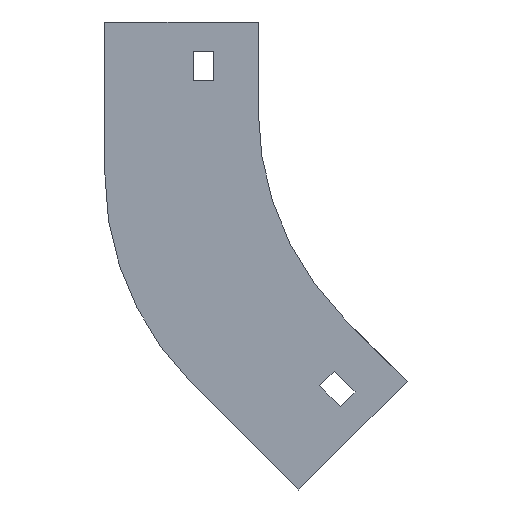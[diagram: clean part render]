
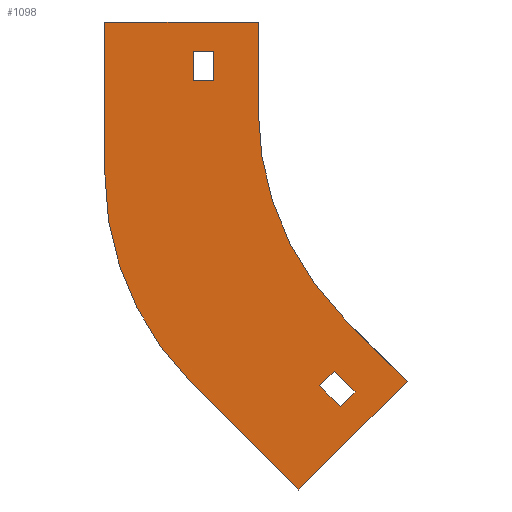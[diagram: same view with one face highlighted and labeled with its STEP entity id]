
A CAD part, left-side view. The second image highlights one B-rep face of the part: STEP entity #1098.
In plain terms, the highlighted planar face has unit normal (-1, 0, 0).
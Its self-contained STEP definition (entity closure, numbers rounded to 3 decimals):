
#8 = ORIENTED_EDGE ( 'NONE', *, *, #652, .F. ) ;
#13 = ORIENTED_EDGE ( 'NONE', *, *, #1168, .F. ) ;
#17 = CARTESIAN_POINT ( 'NONE',  ( -202., -13.733, -158.693 ) ) ;
#27 = CARTESIAN_POINT ( 'NONE',  ( -202., 52., 0. ) ) ;
#34 = CARTESIAN_POINT ( 'NONE',  ( -202., 22., -20. ) ) ;
#43 = VERTEX_POINT ( 'NONE', #1387 ) ;
#54 = VERTEX_POINT ( 'NONE', #941 ) ;
#56 = CARTESIAN_POINT ( 'NONE',  ( -202., -32.825, -125.459 ) ) ;
#68 = DIRECTION ( 'NONE',  ( 0., 0., -1. ) ) ;
#85 = VECTOR ( 'NONE', #113, 1000. ) ;
#95 = DIRECTION ( 'NONE',  ( 0., -1., 0. ) ) ;
#102 = CIRCLE ( 'NONE', #281, 100. ) ;
#113 = DIRECTION ( 'NONE',  ( 0., 0., 1. ) ) ;
#115 = ORIENTED_EDGE ( 'NONE', *, *, #1063, .F. ) ;
#125 = DIRECTION ( 'NONE',  ( -1., 0., 0. ) ) ;
#129 = CARTESIAN_POINT ( 'NONE',  ( -202., -50.503, -121.924 ) ) ;
#141 = VERTEX_POINT ( 'NONE', #129 ) ;
#146 = LINE ( 'NONE', #333, #702 ) ;
#147 = CARTESIAN_POINT ( 'NONE',  ( -202., -20.804, -123.338 ) ) ;
#179 = DIRECTION ( 'NONE',  ( 0., -1., 0. ) ) ;
#180 = ORIENTED_EDGE ( 'NONE', *, *, #637, .F. ) ;
#188 = VECTOR ( 'NONE', #556, 1000. ) ;
#190 = AXIS2_PLACEMENT_3D ( 'NONE', #1299, #125, #770 ) ;
#221 = EDGE_LOOP ( 'NONE', ( #426, #851, #1008, #115 ) ) ;
#222 = VECTOR ( 'NONE', #315, 1000. ) ;
#225 = VERTEX_POINT ( 'NONE', #568 ) ;
#230 = DIRECTION ( 'NONE',  ( 0., 0.707, -0.707 ) ) ;
#233 = FACE_BOUND ( 'NONE', #1297, .T. ) ;
#254 = FACE_OUTER_BOUND ( 'NONE', #804, .T. ) ;
#259 = VECTOR ( 'NONE', #874, 1000. ) ;
#264 = DIRECTION ( 'NONE',  ( 0., -0.707, -0.707 ) ) ;
#273 = VERTEX_POINT ( 'NONE', #56 ) ;
#277 = EDGE_CURVE ( 'NONE', #806, #680, #1002, .T. ) ;
#280 = VECTOR ( 'NONE', #264, 1000. ) ;
#281 = AXIS2_PLACEMENT_3D ( 'NONE', #464, #789, #1197 ) ;
#287 = EDGE_CURVE ( 'NONE', #859, #1097, #1361, .T. ) ;
#307 = LINE ( 'NONE', #729, #1162 ) ;
#315 = DIRECTION ( 'NONE',  ( 0., 0., 1. ) ) ;
#325 = DIRECTION ( 'NONE',  ( 0., 0.707, -0.707 ) ) ;
#333 = CARTESIAN_POINT ( 'NONE',  ( -202., -29.289, -100.711 ) ) ;
#338 = CARTESIAN_POINT ( 'NONE',  ( -202., 0., 0. ) ) ;
#349 = ORIENTED_EDGE ( 'NONE', *, *, #939, .F. ) ;
#364 = LINE ( 'NONE', #716, #1285 ) ;
#381 = DIRECTION ( 'NONE',  ( 0., 0., -1. ) ) ;
#426 = ORIENTED_EDGE ( 'NONE', *, *, #1080, .F. ) ;
#440 = LINE ( 'NONE', #455, #259 ) ;
#455 = CARTESIAN_POINT ( 'NONE',  ( -202., -13.733, -158.693 ) ) ;
#464 = CARTESIAN_POINT ( 'NONE',  ( -202., -48., -51.539 ) ) ;
#469 = ORIENTED_EDGE ( 'NONE', *, *, #491, .T. ) ;
#477 = DIRECTION ( 'NONE',  ( -1., 0., 0. ) ) ;
#491 = EDGE_CURVE ( 'NONE', #54, #225, #307, .T. ) ;
#500 = ORIENTED_EDGE ( 'NONE', *, *, #1149, .F. ) ;
#535 = VECTOR ( 'NONE', #1344, 1000. ) ;
#538 = CARTESIAN_POINT ( 'NONE',  ( -202., -29.289, -100.711 ) ) ;
#544 = CARTESIAN_POINT ( 'NONE',  ( -202., 22., -20. ) ) ;
#556 = DIRECTION ( 'NONE',  ( 0., -0.707, 0.707 ) ) ;
#565 = CARTESIAN_POINT ( 'NONE',  ( -202., -27.875, -130.409 ) ) ;
#568 = CARTESIAN_POINT ( 'NONE',  ( -202., 15., -20. ) ) ;
#576 = LINE ( 'NONE', #675, #1225 ) ;
#583 = VERTEX_POINT ( 'NONE', #538 ) ;
#585 = CARTESIAN_POINT ( 'NONE',  ( -202., 52., -51.539 ) ) ;
#587 = VERTEX_POINT ( 'NONE', #950 ) ;
#595 = ORIENTED_EDGE ( 'NONE', *, *, #934, .T. ) ;
#596 = EDGE_CURVE ( 'NONE', #857, #54, #1053, .T. ) ;
#598 = CARTESIAN_POINT ( 'NONE',  ( -202., -100., -30. ) ) ;
#637 = EDGE_CURVE ( 'NONE', #932, #859, #1069, .T. ) ;
#648 = VERTEX_POINT ( 'NONE', #544 ) ;
#652 = EDGE_CURVE ( 'NONE', #141, #840, #839, .T. ) ;
#659 = AXIS2_PLACEMENT_3D ( 'NONE', #598, #477, #1114 ) ;
#675 = CARTESIAN_POINT ( 'NONE',  ( -202., -32.825, -125.459 ) ) ;
#680 = VERTEX_POINT ( 'NONE', #856 ) ;
#702 = VECTOR ( 'NONE', #761, 1000. ) ;
#716 = CARTESIAN_POINT ( 'NONE',  ( -202., 0., 0. ) ) ;
#729 = CARTESIAN_POINT ( 'NONE',  ( -202., 15., -10. ) ) ;
#739 = CARTESIAN_POINT ( 'NONE',  ( -202., -50.503, -121.924 ) ) ;
#759 = EDGE_CURVE ( 'NONE', #840, #878, #440, .T. ) ;
#761 = DIRECTION ( 'NONE',  ( 0., -0.707, -0.707 ) ) ;
#770 = DIRECTION ( 'NONE',  ( 0., 0., 1. ) ) ;
#789 = DIRECTION ( 'NONE',  ( 1., 0., 0. ) ) ;
#804 = EDGE_LOOP ( 'NONE', ( #1024, #180, #349, #1081, #8, #500, #846, #13 ) ) ;
#806 = VERTEX_POINT ( 'NONE', #147 ) ;
#811 = CARTESIAN_POINT ( 'NONE',  ( -202., 52., 0. ) ) ;
#839 = LINE ( 'NONE', #739, #1179 ) ;
#840 = VERTEX_POINT ( 'NONE', #17 ) ;
#846 = ORIENTED_EDGE ( 'NONE', *, *, #1221, .F. ) ;
#849 = LINE ( 'NONE', #929, #222 ) ;
#851 = ORIENTED_EDGE ( 'NONE', *, *, #1108, .F. ) ;
#856 = CARTESIAN_POINT ( 'NONE',  ( -202., -27.875, -130.409 ) ) ;
#857 = VERTEX_POINT ( 'NONE', #1213 ) ;
#859 = VERTEX_POINT ( 'NONE', #27 ) ;
#874 = DIRECTION ( 'NONE',  ( 0., 0.707, 0.707 ) ) ;
#878 = VERTEX_POINT ( 'NONE', #984 ) ;
#889 = CIRCLE ( 'NONE', #659, 100. ) ;
#898 = LINE ( 'NONE', #34, #535 ) ;
#929 = CARTESIAN_POINT ( 'NONE',  ( -202., 22., -10. ) ) ;
#932 = VERTEX_POINT ( 'NONE', #585 ) ;
#934 = EDGE_CURVE ( 'NONE', #225, #648, #898, .T. ) ;
#939 = EDGE_CURVE ( 'NONE', #878, #932, #102, .T. ) ;
#941 = CARTESIAN_POINT ( 'NONE',  ( -202., 15., -10. ) ) ;
#950 = CARTESIAN_POINT ( 'NONE',  ( -202., 0., -30. ) ) ;
#975 = VECTOR ( 'NONE', #95, 1000. ) ;
#978 = PLANE ( 'NONE',  #190 ) ;
#984 = CARTESIAN_POINT ( 'NONE',  ( -202., 22.711, -122.25 ) ) ;
#1002 = LINE ( 'NONE', #1132, #280 ) ;
#1008 = ORIENTED_EDGE ( 'NONE', *, *, #277, .F. ) ;
#1023 = VECTOR ( 'NONE', #179, 1000. ) ;
#1024 = ORIENTED_EDGE ( 'NONE', *, *, #287, .F. ) ;
#1053 = LINE ( 'NONE', #1396, #975 ) ;
#1055 = ORIENTED_EDGE ( 'NONE', *, *, #1362, .T. ) ;
#1063 = EDGE_CURVE ( 'NONE', #43, #806, #1317, .T. ) ;
#1067 = ORIENTED_EDGE ( 'NONE', *, *, #596, .T. ) ;
#1069 = LINE ( 'NONE', #1167, #85 ) ;
#1080 = EDGE_CURVE ( 'NONE', #273, #43, #576, .T. ) ;
#1081 = ORIENTED_EDGE ( 'NONE', *, *, #759, .F. ) ;
#1097 = VERTEX_POINT ( 'NONE', #338 ) ;
#1098 = ADVANCED_FACE ( 'NONE', ( #233, #254, #1219 ), #978, .T. ) ;
#1108 = EDGE_CURVE ( 'NONE', #680, #273, #1196, .T. ) ;
#1114 = DIRECTION ( 'NONE',  ( 0., 0., 1. ) ) ;
#1132 = CARTESIAN_POINT ( 'NONE',  ( -202., -27.875, -130.409 ) ) ;
#1149 = EDGE_CURVE ( 'NONE', #583, #141, #146, .T. ) ;
#1162 = VECTOR ( 'NONE', #381, 1000. ) ;
#1167 = CARTESIAN_POINT ( 'NONE',  ( -202., 52., -51.539 ) ) ;
#1168 = EDGE_CURVE ( 'NONE', #1097, #587, #364, .T. ) ;
#1179 = VECTOR ( 'NONE', #325, 1000. ) ;
#1189 = DIRECTION ( 'NONE',  ( 0., 0.707, 0.707 ) ) ;
#1194 = CARTESIAN_POINT ( 'NONE',  ( -202., -20.804, -123.338 ) ) ;
#1196 = LINE ( 'NONE', #565, #188 ) ;
#1197 = DIRECTION ( 'NONE',  ( 0., 0., -1. ) ) ;
#1213 = CARTESIAN_POINT ( 'NONE',  ( -202., 22., -10. ) ) ;
#1219 = FACE_BOUND ( 'NONE', #221, .T. ) ;
#1221 = EDGE_CURVE ( 'NONE', #587, #583, #889, .T. ) ;
#1225 = VECTOR ( 'NONE', #1189, 1000. ) ;
#1285 = VECTOR ( 'NONE', #68, 1000. ) ;
#1297 = EDGE_LOOP ( 'NONE', ( #1067, #469, #595, #1055 ) ) ;
#1299 = CARTESIAN_POINT ( 'NONE',  ( -202., -100., -30. ) ) ;
#1317 = LINE ( 'NONE', #1194, #1340 ) ;
#1340 = VECTOR ( 'NONE', #230, 1000. ) ;
#1344 = DIRECTION ( 'NONE',  ( 0., 1., 0. ) ) ;
#1361 = LINE ( 'NONE', #811, #1023 ) ;
#1362 = EDGE_CURVE ( 'NONE', #648, #857, #849, .T. ) ;
#1387 = CARTESIAN_POINT ( 'NONE',  ( -202., -25.754, -118.388 ) ) ;
#1396 = CARTESIAN_POINT ( 'NONE',  ( -202., 22., -10. ) ) ;
